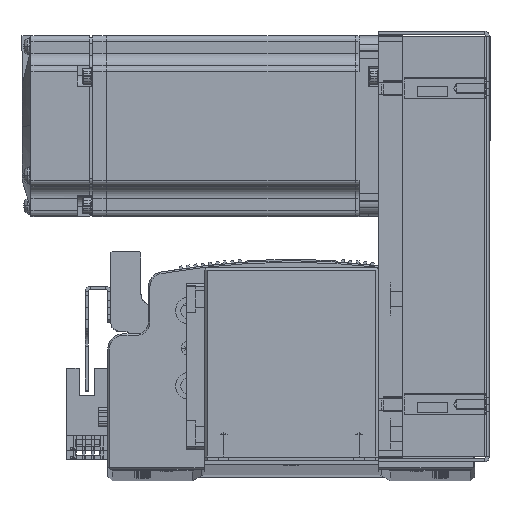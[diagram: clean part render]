
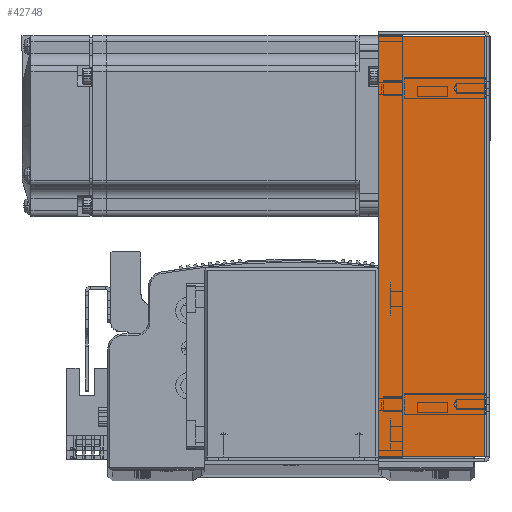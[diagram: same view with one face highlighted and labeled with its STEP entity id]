
A CAD part, top view. The second image highlights one B-rep face of the part: STEP entity #42748.
In plain terms, the highlighted planar face has unit normal (0, 0, 1) as drawn and (0, 0, -1) by its records, which use the part's own axes.
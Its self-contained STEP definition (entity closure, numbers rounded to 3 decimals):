
#3722 = CARTESIAN_POINT ( 'NONE',  ( 69.793, 0.737, -33.5 ) ) ;
#3817 = CARTESIAN_POINT ( 'NONE',  ( 69.793, 36., -33.5 ) ) ;
#3950 = CARTESIAN_POINT ( 'NONE',  ( -69.793, 36., -33.5 ) ) ;
#4050 = CARTESIAN_POINT ( 'NONE',  ( -69.793, 0.737, -33.5 ) ) ;
#23602 = LINE ( 'NONE', #27671, #23666 ) ;
#23605 = VECTOR ( 'NONE', #27437, 1000. ) ;
#23608 = VECTOR ( 'NONE', #27379, 1000. ) ;
#23616 = LINE ( 'NONE', #27388, #23605 ) ;
#23639 = LINE ( 'NONE', #27363, #23608 ) ;
#23666 = VECTOR ( 'NONE', #27664, 1000. ) ;
#23991 = LINE ( 'NONE', #27594, #24019 ) ;
#24019 = VECTOR ( 'NONE', #27598, 1000. ) ;
#27363 = CARTESIAN_POINT ( 'NONE',  ( 69.793, 0., -33.5 ) ) ;
#27379 = DIRECTION ( 'NONE',  ( 0., 1., 0. ) ) ;
#27388 = CARTESIAN_POINT ( 'NONE',  ( 0., 36., -33.5 ) ) ;
#27437 = DIRECTION ( 'NONE',  ( 1., 0., 0. ) ) ;
#27594 = CARTESIAN_POINT ( 'NONE',  ( 71.5, 0.737, -33.5 ) ) ;
#27598 = DIRECTION ( 'NONE',  ( 1., 0., 0. ) ) ;
#27664 = DIRECTION ( 'NONE',  ( 0., 1., 0. ) ) ;
#27671 = CARTESIAN_POINT ( 'NONE',  ( -69.793, 0., -33.5 ) ) ;
#34481 = FACE_OUTER_BOUND ( 'NONE', #76570, .T. ) ;
#42748 = ADVANCED_FACE ( 'NONE', ( #34481 ), #51667, .F. ) ;
#51637 = DIRECTION ( 'NONE',  ( 0., 0., 1. ) ) ;
#51644 = DIRECTION ( 'NONE',  ( 0., -1., 0. ) ) ;
#51667 = PLANE ( 'NONE',  #78182 ) ;
#51669 = CARTESIAN_POINT ( 'NONE',  ( 0., 0., -33.5 ) ) ;
#56892 = EDGE_CURVE ( 'NONE', #88836, #88927, #23639, .T. ) ;
#56898 = EDGE_CURVE ( 'NONE', #88962, #88927, #23616, .T. ) ;
#56971 = EDGE_CURVE ( 'NONE', #88988, #88836, #23991, .T. ) ;
#56974 = EDGE_CURVE ( 'NONE', #88988, #88962, #23602, .T. ) ;
#60915 = ORIENTED_EDGE ( 'NONE', *, *, #56898, .T. ) ;
#60936 = ORIENTED_EDGE ( 'NONE', *, *, #56892, .F. ) ;
#60995 = ORIENTED_EDGE ( 'NONE', *, *, #56974, .T. ) ;
#61147 = ORIENTED_EDGE ( 'NONE', *, *, #56971, .F. ) ;
#76570 = EDGE_LOOP ( 'NONE', ( #61147, #60995, #60915, #60936 ) ) ;
#78182 = AXIS2_PLACEMENT_3D ( 'NONE', #51669, #51637, #51644 ) ;
#88836 = VERTEX_POINT ( 'NONE', #3722 ) ;
#88927 = VERTEX_POINT ( 'NONE', #3817 ) ;
#88962 = VERTEX_POINT ( 'NONE', #3950 ) ;
#88988 = VERTEX_POINT ( 'NONE', #4050 ) ;
